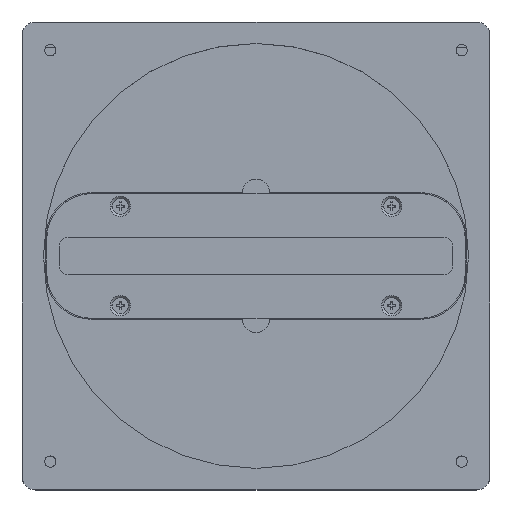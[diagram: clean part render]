
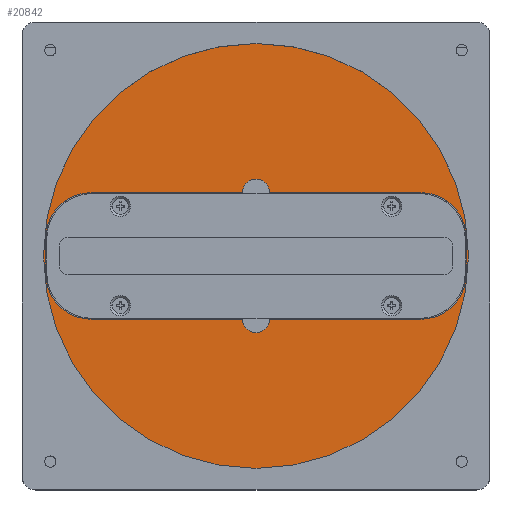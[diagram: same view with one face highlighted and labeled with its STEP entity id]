
A CAD part, top view. The second image highlights one B-rep face of the part: STEP entity #20842.
In plain terms, the highlighted planar face has unit normal (0, 0, 1).
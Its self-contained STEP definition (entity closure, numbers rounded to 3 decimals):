
#424 = CARTESIAN_POINT ( 'NONE',  ( 48., 0., 7.48 ) ) ;
#992 = DIRECTION ( 'NONE',  ( 0., 0., 1. ) ) ;
#1235 = DIRECTION ( 'NONE',  ( 0., 0., 1. ) ) ;
#1282 = CARTESIAN_POINT ( 'NONE',  ( -36.5, -14., 7.48 ) ) ;
#2793 = VERTEX_POINT ( 'NONE', #3334 ) ;
#3033 = VERTEX_POINT ( 'NONE', #16758 ) ;
#3086 = CARTESIAN_POINT ( 'NONE',  ( -36.5, 14., 7.48 ) ) ;
#3233 = DIRECTION ( 'NONE',  ( -1., 0., 0. ) ) ;
#3334 = CARTESIAN_POINT ( 'NONE',  ( 46.5, 4., 7.48 ) ) ;
#4113 = DIRECTION ( 'NONE',  ( 0., 0., 1. ) ) ;
#4333 = CARTESIAN_POINT ( 'NONE',  ( 36.5, 4., 7.48 ) ) ;
#5056 = VERTEX_POINT ( 'NONE', #20917 ) ;
#5173 = LINE ( 'NONE', #3086, #25890 ) ;
#5259 = CARTESIAN_POINT ( 'NONE',  ( 36.5, -4., 7.48 ) ) ;
#5376 = EDGE_CURVE ( 'NONE', #41888, #3033, #17856, .T. ) ;
#6017 = ORIENTED_EDGE ( 'NONE', *, *, #41731, .F. ) ;
#6412 = CARTESIAN_POINT ( 'NONE',  ( 46.5, 4., 7.48 ) ) ;
#6755 = EDGE_CURVE ( 'NONE', #2793, #5056, #7118, .T. ) ;
#6939 = EDGE_LOOP ( 'NONE', ( #10490, #25951, #12187, #40408, #18289, #32638, #26235, #6017, #45307, #20474, #11420, #30093 ) ) ;
#7118 = CIRCLE ( 'NONE', #46837, 10. ) ;
#8827 = AXIS2_PLACEMENT_3D ( 'NONE', #9792, #17792, #17467 ) ;
#8850 = EDGE_CURVE ( 'NONE', #49691, #26522, #5173, .T. ) ;
#9027 = CARTESIAN_POINT ( 'NONE',  ( 3., 14., 7.48 ) ) ;
#9064 = AXIS2_PLACEMENT_3D ( 'NONE', #26563, #15097, #11513 ) ;
#9165 = DIRECTION ( 'NONE',  ( 0., 0., 1. ) ) ;
#9485 = VERTEX_POINT ( 'NONE', #31723 ) ;
#9587 = FACE_OUTER_BOUND ( 'NONE', #22902, .T. ) ;
#9792 = CARTESIAN_POINT ( 'NONE',  ( 0., 0., 7.48 ) ) ;
#10045 = DIRECTION ( 'NONE',  ( 0., -1., 0. ) ) ;
#10490 = ORIENTED_EDGE ( 'NONE', *, *, #45281, .F. ) ;
#11227 = ORIENTED_EDGE ( 'NONE', *, *, #40709, .T. ) ;
#11420 = ORIENTED_EDGE ( 'NONE', *, *, #8850, .F. ) ;
#11513 = DIRECTION ( 'NONE',  ( 1., 0., 0. ) ) ;
#11930 = AXIS2_PLACEMENT_3D ( 'NONE', #47247, #1235, #43840 ) ;
#12070 = CARTESIAN_POINT ( 'NONE',  ( 0., 0., 7.48 ) ) ;
#12187 = ORIENTED_EDGE ( 'NONE', *, *, #45803, .F. ) ;
#12452 = DIRECTION ( 'NONE',  ( 0., 0., 1. ) ) ;
#12839 = DIRECTION ( 'NONE',  ( 1., 0., 0. ) ) ;
#12985 = AXIS2_PLACEMENT_3D ( 'NONE', #5259, #9165, #20906 ) ;
#13133 = CARTESIAN_POINT ( 'NONE',  ( -48., 0., 7.48 ) ) ;
#13188 = LINE ( 'NONE', #45078, #19275 ) ;
#13625 = VERTEX_POINT ( 'NONE', #424 ) ;
#13631 = CARTESIAN_POINT ( 'NONE',  ( 46.5, -4., 7.48 ) ) ;
#14071 = CARTESIAN_POINT ( 'NONE',  ( 3., -14., 7.48 ) ) ;
#15097 = DIRECTION ( 'NONE',  ( 0., 0., 1. ) ) ;
#16628 = CARTESIAN_POINT ( 'NONE',  ( -46.5, -4., 7.48 ) ) ;
#16758 = CARTESIAN_POINT ( 'NONE',  ( 36.5, -14., 7.48 ) ) ;
#17467 = DIRECTION ( 'NONE',  ( 1., 0., 0. ) ) ;
#17792 = DIRECTION ( 'NONE',  ( 0., 0., 1. ) ) ;
#17856 = LINE ( 'NONE', #41539, #49638 ) ;
#18289 = ORIENTED_EDGE ( 'NONE', *, *, #5376, .F. ) ;
#18724 = EDGE_CURVE ( 'NONE', #26299, #41888, #23716, .T. ) ;
#19275 = VECTOR ( 'NONE', #10045, 1000. ) ;
#20474 = ORIENTED_EDGE ( 'NONE', *, *, #42787, .F. ) ;
#20493 = EDGE_CURVE ( 'NONE', #9485, #50486, #13188, .T. ) ;
#20593 = CIRCLE ( 'NONE', #48026, 3. ) ;
#20842 = ADVANCED_FACE ( 'NONE', ( #49337, #9587 ), #23779, .F. ) ;
#20906 = DIRECTION ( 'NONE',  ( 1., 0., 0. ) ) ;
#20917 = CARTESIAN_POINT ( 'NONE',  ( 36.5, 14., 7.48 ) ) ;
#21451 = CIRCLE ( 'NONE', #38434, 48. ) ;
#22902 = EDGE_LOOP ( 'NONE', ( #11227, #38156 ) ) ;
#22931 = EDGE_CURVE ( 'NONE', #25623, #26299, #37160, .T. ) ;
#23146 = DIRECTION ( 'NONE',  ( 1., 0., 0. ) ) ;
#23716 = CIRCLE ( 'NONE', #46849, 3. ) ;
#23779 = PLANE ( 'NONE',  #33464 ) ;
#25623 = VERTEX_POINT ( 'NONE', #38300 ) ;
#25890 = VECTOR ( 'NONE', #3233, 1000. ) ;
#25951 = ORIENTED_EDGE ( 'NONE', *, *, #6755, .F. ) ;
#26235 = ORIENTED_EDGE ( 'NONE', *, *, #22931, .F. ) ;
#26299 = VERTEX_POINT ( 'NONE', #46768 ) ;
#26522 = VERTEX_POINT ( 'NONE', #36165 ) ;
#26563 = CARTESIAN_POINT ( 'NONE',  ( -36.5, 4., 7.48 ) ) ;
#27165 = DIRECTION ( 'NONE',  ( 1., 0., 0. ) ) ;
#30093 = ORIENTED_EDGE ( 'NONE', *, *, #44695, .F. ) ;
#30273 = VECTOR ( 'NONE', #38314, 1000. ) ;
#31723 = CARTESIAN_POINT ( 'NONE',  ( -46.5, 4., 7.48 ) ) ;
#32638 = ORIENTED_EDGE ( 'NONE', *, *, #18724, .F. ) ;
#33464 = AXIS2_PLACEMENT_3D ( 'NONE', #34870, #50603, #38988 ) ;
#34870 = CARTESIAN_POINT ( 'NONE',  ( 0., 0., 7.48 ) ) ;
#35299 = EDGE_CURVE ( 'NONE', #13625, #40496, #36508, .T. ) ;
#35307 = DIRECTION ( 'NONE',  ( 1., 0., 0. ) ) ;
#36165 = CARTESIAN_POINT ( 'NONE',  ( -36.5, 14., 7.48 ) ) ;
#36427 = CARTESIAN_POINT ( 'NONE',  ( 0., -14., 7.48 ) ) ;
#36508 = CIRCLE ( 'NONE', #8827, 48. ) ;
#37160 = LINE ( 'NONE', #1282, #45084 ) ;
#38141 = CARTESIAN_POINT ( 'NONE',  ( 3., 14., 7.48 ) ) ;
#38156 = ORIENTED_EDGE ( 'NONE', *, *, #35299, .T. ) ;
#38300 = CARTESIAN_POINT ( 'NONE',  ( -36.5, -14., 7.48 ) ) ;
#38314 = DIRECTION ( 'NONE',  ( -1., 0., 0. ) ) ;
#38434 = AXIS2_PLACEMENT_3D ( 'NONE', #12070, #46754, #35307 ) ;
#38988 = DIRECTION ( 'NONE',  ( -1., 0., 0. ) ) ;
#39753 = CARTESIAN_POINT ( 'NONE',  ( 0., 14., 7.48 ) ) ;
#40408 = ORIENTED_EDGE ( 'NONE', *, *, #44487, .F. ) ;
#40496 = VERTEX_POINT ( 'NONE', #13133 ) ;
#40700 = LINE ( 'NONE', #38141, #30273 ) ;
#40709 = EDGE_CURVE ( 'NONE', #40496, #13625, #21451, .T. ) ;
#41303 = CARTESIAN_POINT ( 'NONE',  ( -3., 14., 7.48 ) ) ;
#41379 = CIRCLE ( 'NONE', #12985, 10. ) ;
#41489 = CIRCLE ( 'NONE', #11930, 10. ) ;
#41539 = CARTESIAN_POINT ( 'NONE',  ( 3., -14., 7.48 ) ) ;
#41731 = EDGE_CURVE ( 'NONE', #50486, #25623, #41489, .T. ) ;
#41888 = VERTEX_POINT ( 'NONE', #14071 ) ;
#42787 = EDGE_CURVE ( 'NONE', #26522, #9485, #49978, .T. ) ;
#43840 = DIRECTION ( 'NONE',  ( 1., 0., 0. ) ) ;
#44352 = VECTOR ( 'NONE', #49449, 1000. ) ;
#44487 = EDGE_CURVE ( 'NONE', #3033, #49640, #41379, .T. ) ;
#44695 = EDGE_CURVE ( 'NONE', #48844, #49691, #20593, .T. ) ;
#45078 = CARTESIAN_POINT ( 'NONE',  ( -46.5, 4., 7.48 ) ) ;
#45084 = VECTOR ( 'NONE', #23146, 1000. ) ;
#45281 = EDGE_CURVE ( 'NONE', #5056, #48844, #40700, .T. ) ;
#45307 = ORIENTED_EDGE ( 'NONE', *, *, #20493, .F. ) ;
#45803 = EDGE_CURVE ( 'NONE', #49640, #2793, #50440, .T. ) ;
#46754 = DIRECTION ( 'NONE',  ( 0., 0., 1. ) ) ;
#46768 = CARTESIAN_POINT ( 'NONE',  ( -3., -14., 7.48 ) ) ;
#46837 = AXIS2_PLACEMENT_3D ( 'NONE', #4333, #12452, #47492 ) ;
#46849 = AXIS2_PLACEMENT_3D ( 'NONE', #36427, #992, #12839 ) ;
#47247 = CARTESIAN_POINT ( 'NONE',  ( -36.5, -4., 7.48 ) ) ;
#47446 = DIRECTION ( 'NONE',  ( 1., 0., 0. ) ) ;
#47492 = DIRECTION ( 'NONE',  ( -1., 0., 0. ) ) ;
#48026 = AXIS2_PLACEMENT_3D ( 'NONE', #39753, #4113, #47446 ) ;
#48844 = VERTEX_POINT ( 'NONE', #9027 ) ;
#49337 = FACE_BOUND ( 'NONE', #6939, .T. ) ;
#49449 = DIRECTION ( 'NONE',  ( 0., 1., 0. ) ) ;
#49638 = VECTOR ( 'NONE', #27165, 1000. ) ;
#49640 = VERTEX_POINT ( 'NONE', #13631 ) ;
#49691 = VERTEX_POINT ( 'NONE', #41303 ) ;
#49978 = CIRCLE ( 'NONE', #9064, 10. ) ;
#50440 = LINE ( 'NONE', #6412, #44352 ) ;
#50486 = VERTEX_POINT ( 'NONE', #16628 ) ;
#50603 = DIRECTION ( 'NONE',  ( 0., 0., -1. ) ) ;
